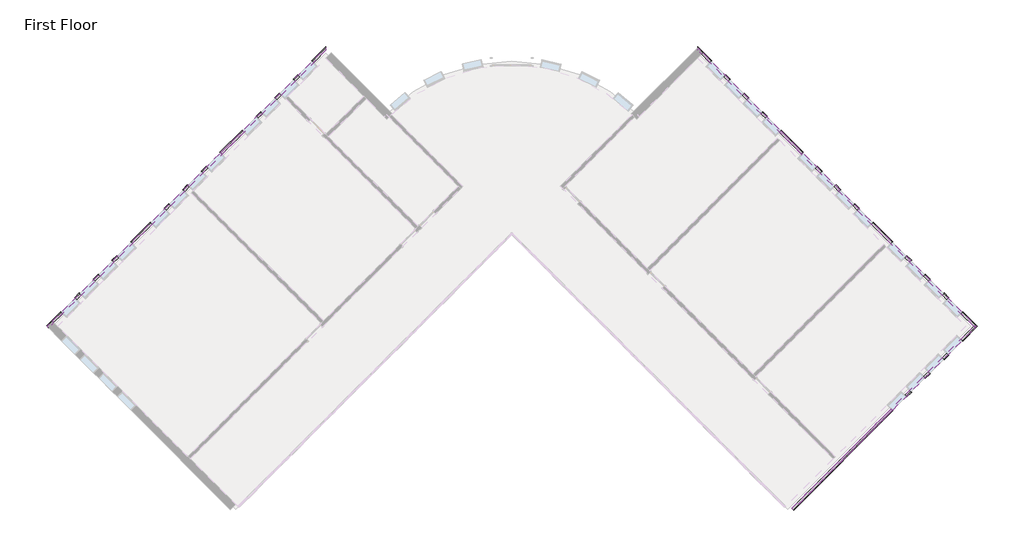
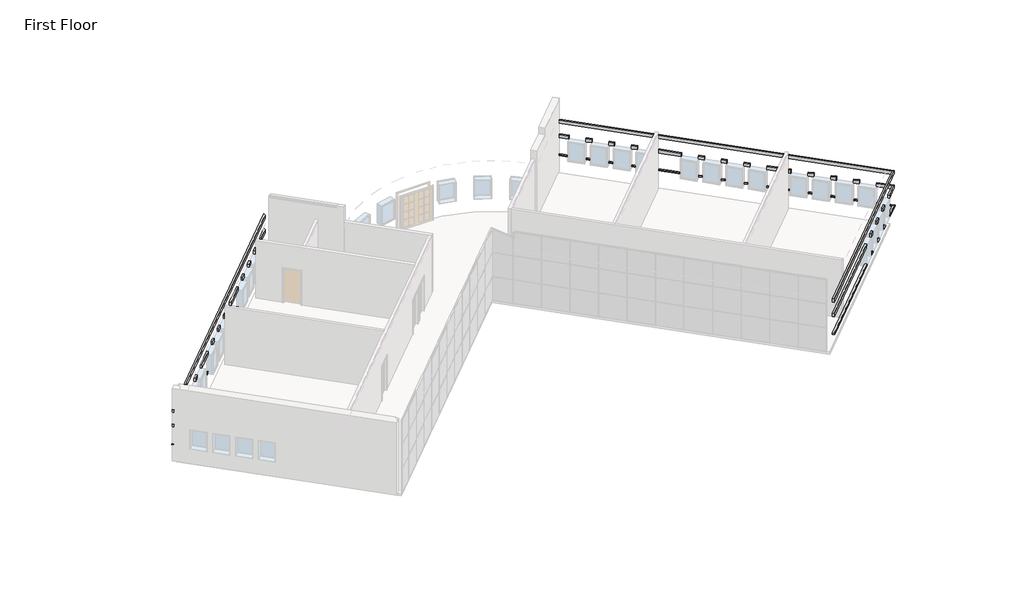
# One storey, part 5 of 5: 9 proxies.
"""IFC4 building model written with IfcOpenShell, lengths in millimetres."""

from ifc_helpers import new_model, si_unit, origin, place, context, project, spatial, faceted_brep, element, save

model = new_model("IFC4")

# Units and contexts
model_context = context("Model", 3, world=origin())
ifc_project = project(units=[si_unit("LENGTHUNIT", "METRE", prefix="MILLI")], contexts=[model_context])

# Site, building, storey
site = spatial("IfcSite", under=ifc_project)
building = spatial("IfcBuilding", under=site)
storey = spatial("IfcBuildingStorey", under=building, Name="First Floor", Elevation=0.0)

# Proxies
placement = place(None, origin())
element("IfcBuildingElementProxy", 1, Name="Wall Sweeps", at=placement, inside=storey, context=model_context, shape_type="Brep", body=[
    faceted_brep([(5753.0175119, 11443.3655905, 1085.85), (5753.0175119, 11573.5793042, 1085.85), (5753.0175119, 11622.9707129, 1041.4), (5753.0175119, 11622.9707129, 1016.0), (5753.0175119, 11443.3655905, 1016.0), (6317.415551, 10878.9675514, 1085.85), (6317.415551, 10878.9675514, 1016.0), (6382.5224079, 10944.0744083, 1016.0), (6407.2181122, 10968.7701126, 1016.0), (6407.2181122, 10968.7701126, 1041.4), (6382.5224079, 10944.0744083, 1085.85), (5937.1127624, 11259.27034, 1085.85), (5937.1127624, 11259.27034, 1016.0)], [[[0, 1, 2, 3, 4]], [[5, 6, 7, 8, 9, 10]], [[1, 0, 11, 5, 10]], [[2, 1, 10, 9]], [[3, 2, 9, 8]], [[4, 3, 8, 7, 6, 12]], [[0, 4, 12, 6, 5, 11]]]),
    faceted_brep([(6963.9939917, 10232.3891107, 1085.85), (7029.1008486, 10297.4959676, 1085.85), (7053.7965529, 10322.1916719, 1041.4), (7053.7965529, 10322.1916719, 1016.0), (7029.1008486, 10297.4959676, 1016.0), (6963.9939917, 10232.3891107, 1016.0), (7179.5201386, 10016.8629638, 1085.85), (7179.5201386, 10016.8629638, 1016.0), (7244.6269955, 10081.9698207, 1016.0), (7269.3226998, 10106.665525, 1016.0), (7269.3226998, 10106.665525, 1041.4), (7244.6269955, 10081.9698207, 1085.85)], [[[0, 1, 2, 3, 4, 5]], [[6, 7, 8, 9, 10, 11]], [[1, 0, 6, 11]], [[2, 1, 11, 10]], [[3, 2, 10, 9]], [[5, 4, 3, 9, 8, 7]], [[0, 5, 7, 6]]]),
    faceted_brep([(7826.0985793, 9370.2845231, 1085.85), (7891.2054362, 9435.39138, 1085.85), (7915.9011405, 9460.0870843, 1041.4), (7915.9011405, 9460.0870843, 1016.0), (7891.2054362, 9435.39138, 1016.0), (7826.0985793, 9370.2845231, 1016.0), (8041.6247262, 9154.7583762, 1085.85), (8041.6247262, 9154.7583762, 1016.0), (8106.7315831, 9219.8652331, 1016.0), (8131.4272874, 9244.5609374, 1016.0), (8131.4272874, 9244.5609374, 1041.4), (8106.7315831, 9219.8652331, 1085.85)], [[[0, 1, 2, 3, 4, 5]], [[6, 7, 8, 9, 10, 11]], [[1, 0, 6, 11]], [[2, 1, 11, 10]], [[3, 2, 10, 9]], [[5, 4, 3, 9, 8, 7]], [[0, 5, 7, 6]]]),
    faceted_brep([(8688.2031669, 8508.1799355, 1085.85), (8753.3100238, 8573.2867923, 1085.85), (8778.0057282, 8597.9824967, 1041.4), (8778.0057282, 8597.9824967, 1016.0), (8753.3100238, 8573.2867923, 1016.0), (8688.2031669, 8508.1799355, 1016.0), (8903.7293139, 8292.6537886, 1085.85), (8903.7293139, 8292.6537886, 1016.0), (8968.8361707, 8357.7606454, 1016.0), (8993.5318751, 8382.4563498, 1016.0), (8993.5318751, 8382.4563498, 1041.4), (8968.8361707, 8357.7606454, 1085.85)], [[[0, 1, 2, 3, 4, 5]], [[6, 7, 8, 9, 10, 11]], [[1, 0, 6, 11]], [[2, 1, 11, 10]], [[3, 2, 10, 9]], [[5, 4, 3, 9, 8, 7]], [[0, 5, 7, 6]]]),
    faceted_brep([(9550.3077546, 7646.0753478, 1085.85), (9615.4146114, 7711.1822047, 1085.85), (9640.1103158, 7735.877909, 1041.4), (9640.1103158, 7735.877909, 1016.0), (9615.4146114, 7711.1822047, 1016.0), (9550.3077546, 7646.0753478, 1016.0), (10574.7639411, 6621.6191613, 1085.85), (10574.7639411, 6621.6191613, 1016.0), (10639.870798, 6686.7260182, 1016.0), (10664.5665023, 6711.4217225, 1016.0), (10664.5665023, 6711.4217225, 1041.4), (10639.870798, 6686.7260182, 1085.85)], [[[0, 1, 2, 3, 4, 5]], [[6, 7, 8, 9, 10, 11]], [[1, 0, 6, 11]], [[2, 1, 11, 10]], [[3, 2, 10, 9]], [[5, 4, 3, 9, 8, 7]], [[0, 5, 7, 6]]]),
    faceted_brep([(11221.3423818, 5975.0407206, 1085.85), (11286.4492387, 6040.1475775, 1085.85), (11311.144943, 6064.8432818, 1041.4), (11311.144943, 6064.8432818, 1016.0), (11286.4492387, 6040.1475775, 1016.0), (11221.3423818, 5975.0407206, 1016.0), (11436.8685287, 5759.5145737, 1085.85), (11436.8685287, 5759.5145737, 1016.0), (11501.9753856, 5824.6214306, 1016.0), (11526.6710899, 5849.3171349, 1016.0), (11526.6710899, 5849.3171349, 1041.4), (11501.9753856, 5824.6214306, 1085.85)], [[[0, 1, 2, 3, 4, 5]], [[6, 7, 8, 9, 10, 11]], [[1, 0, 6, 11]], [[2, 1, 11, 10]], [[3, 2, 10, 9]], [[5, 4, 3, 9, 8, 7]], [[0, 5, 7, 6]]]),
    faceted_brep([(12083.4469694, 5112.936133, 1085.85), (12148.5538263, 5178.0429899, 1085.85), (12173.2495306, 5202.7386942, 1041.4), (12173.2495306, 5202.7386942, 1016.0), (12148.5538263, 5178.0429899, 1016.0), (12083.4469694, 5112.936133, 1016.0), (12298.9731163, 4897.4099861, 1085.85), (12298.9731163, 4897.4099861, 1016.0), (12364.0799732, 4962.516843, 1016.0), (12388.7756775, 4987.2125473, 1016.0), (12388.7756775, 4987.2125473, 1041.4), (12364.0799732, 4962.516843, 1085.85)], [[[0, 1, 2, 3, 4, 5]], [[6, 7, 8, 9, 10, 11]], [[1, 0, 6, 11]], [[2, 1, 11, 10]], [[3, 2, 10, 9]], [[5, 4, 3, 9, 8, 7]], [[0, 5, 7, 6]]]),
    faceted_brep([(12945.551557, 4250.8315454, 1085.85), (13010.6584139, 4315.9384023, 1085.85), (13035.3541182, 4340.6341066, 1041.4), (13035.3541182, 4340.6341066, 1016.0), (13010.6584139, 4315.9384023, 1016.0), (12945.551557, 4250.8315454, 1016.0), (13161.0777039, 4035.3053985, 1085.85), (13161.0777039, 4035.3053985, 1016.0), (13226.1845608, 4100.4122553, 1016.0), (13250.8802652, 4125.1079597, 1016.0), (13250.8802652, 4125.1079597, 1041.4), (13226.1845608, 4100.4122553, 1085.85)], [[[0, 1, 2, 3, 4, 5]], [[6, 7, 8, 9, 10, 11]], [[1, 0, 6, 11]], [[2, 1, 11, 10]], [[3, 2, 10, 9]], [[5, 4, 3, 9, 8, 7]], [[0, 5, 7, 6]]]),
    faceted_brep([(13807.6561447, 3388.7269578, 1085.85), (13872.7630015, 3453.8338146, 1085.85), (13897.4587059, 3478.529519, 1041.4), (13897.4587059, 3478.529519, 1016.0), (13872.7630015, 3453.8338146, 1016.0), (13807.6561447, 3388.7269578, 1016.0), (14723.1708449, 2473.2122576, 1085.85), (14723.1708449, 2473.2122576, 1016.0), (14788.2777017, 2538.3191144, 1016.0), (14812.9734061, 2563.0148188, 1016.0), (14812.9734061, 2563.0148188, 1041.4), (14788.2777017, 2538.3191144, 1085.85)], [[[0, 1, 2, 3, 4, 5]], [[6, 7, 8, 9, 10, 11]], [[1, 0, 6, 11]], [[2, 1, 11, 10]], [[3, 2, 10, 9]], [[5, 4, 3, 9, 8, 7]], [[0, 5, 7, 6]]]),
    faceted_brep([(15369.7492856, 1826.6338168, 1085.85), (15434.8561424, 1891.7406737, 1085.85), (15459.5518468, 1916.4363781, 1041.4), (15459.5518468, 1916.4363781, 1016.0), (15434.8561424, 1891.7406737, 1016.0), (15369.7492856, 1826.6338168, 1016.0), (15585.2754325, 1611.1076699, 1085.85), (15585.2754325, 1611.1076699, 1016.0), (15650.3822894, 1676.2145268, 1016.0), (15675.0779937, 1700.9102311, 1016.0), (15675.0779937, 1700.9102311, 1041.4), (15650.3822894, 1676.2145268, 1085.85)], [[[0, 1, 2, 3, 4, 5]], [[6, 7, 8, 9, 10, 11]], [[1, 0, 6, 11]], [[2, 1, 11, 10]], [[3, 2, 10, 9]], [[5, 4, 3, 9, 8, 7]], [[0, 5, 7, 6]]]),
    faceted_brep([(16231.8538732, 964.5292292, 1085.85), (16296.9607301, 1029.6360861, 1085.85), (16321.6564344, 1054.3317904, 1041.4), (16321.6564344, 1054.3317904, 1016.0), (16296.9607301, 1029.6360861, 1016.0), (16231.8538732, 964.5292292, 1016.0), (16447.3800201, 749.0030823, 1085.85), (16447.3800201, 749.0030823, 1016.0), (16512.486877, 814.1099392, 1016.0), (16537.1825813, 838.8056435, 1016.0), (16537.1825813, 838.8056435, 1041.4), (16512.486877, 814.1099392, 1085.85)], [[[0, 1, 2, 3, 4, 5]], [[6, 7, 8, 9, 10, 11]], [[1, 0, 6, 11]], [[2, 1, 11, 10]], [[3, 2, 10, 9]], [[5, 4, 3, 9, 8, 7]], [[0, 5, 7, 6]]]),
    faceted_brep([(17093.9584608, 102.4246416, 1085.85), (17159.0653177, 167.5314985, 1085.85), (17183.761022, 192.2272028, 1041.4), (17183.761022, 192.2272028, 1016.0), (17159.0653177, 167.5314985, 1016.0), (17093.9584608, 102.4246416, 1016.0), (17309.4846077, -113.1015053, 1085.85), (17309.4846077, -113.1015053, 1016.0), (17374.5914646, -47.9946484, 1016.0), (17399.2871689, -23.2989441, 1016.0), (17399.2871689, -23.2989441, 1041.4), (17374.5914646, -47.9946484, 1085.85)], [[[0, 1, 2, 3, 4, 5]], [[6, 7, 8, 9, 10, 11]], [[1, 0, 6, 11]], [[2, 1, 11, 10]], [[3, 2, 10, 9]], [[5, 4, 3, 9, 8, 7]], [[0, 5, 7, 6]]]),
    faceted_brep([(17956.0630484, -759.679946, 1085.85), (18021.1699053, -694.5730891, 1085.85), (18045.8656096, -669.8773848, 1041.4), (18045.8656096, -669.8773848, 1016.0), (18021.1699053, -694.5730891, 1016.0), (17956.0630484, -759.679946, 1016.0), (18554.3726125, -1357.9895101, 1085.85), (18554.3726125, -1357.9895101, 1016.0), (18733.9777349, -1357.9895101, 1016.0), (18733.9777349, -1357.9895101, 1041.4), (18684.5863263, -1357.9895101, 1085.85)], [[[0, 1, 2, 3, 4, 5]], [[6, 7, 8, 9, 10]], [[1, 0, 6, 10]], [[2, 1, 10, 9]], [[3, 2, 9, 8]], [[5, 4, 3, 8, 7]], [[0, 5, 7, 6]]]),
])
element("IfcBuildingElementProxy", 2, Name="Wall Sweeps", at=placement, inside=storey, context=model_context, shape_type="Brep", body=[
    faceted_brep([(5753.0175119, 11573.5793042, 2336.8), (5753.0175119, 11573.5793042, 2133.6), (5753.0175119, 11443.3655905, 2133.6), (5753.0175119, 11443.3655905, 2336.8), (6382.5224079, 10944.0744083, 2336.8), (6317.415551, 10878.9675514, 2336.8), (6317.415551, 10878.9675514, 2133.6), (6382.5224079, 10944.0744083, 2133.6), (6002.2196193, 11324.3771969, 2336.8), (6002.2196193, 11324.3771969, 2133.6), (5937.1127624, 11259.27034, 2133.6), (5937.1127624, 11259.27034, 2336.8)], [[[0, 1, 2, 3]], [[4, 5, 6, 7]], [[1, 0, 8, 4, 7, 9]], [[2, 1, 9, 7, 6, 10]], [[3, 2, 10, 6, 5, 11]], [[0, 3, 11, 5, 4, 8]]]),
    faceted_brep([(7029.1008486, 10297.4959676, 2336.8), (7029.1008486, 10297.4959676, 2133.6), (6963.9939917, 10232.3891107, 2133.6), (6963.9939917, 10232.3891107, 2336.8), (7244.6269955, 10081.9698207, 2336.8), (7179.5201386, 10016.8629638, 2336.8), (7179.5201386, 10016.8629638, 2133.6), (7244.6269955, 10081.9698207, 2133.6)], [[[0, 1, 2, 3]], [[4, 5, 6, 7]], [[1, 0, 4, 7]], [[2, 1, 7, 6]], [[3, 2, 6, 5]], [[0, 3, 5, 4]]]),
    faceted_brep([(7891.2054362, 9435.39138, 2336.8), (7891.2054362, 9435.39138, 2133.6), (7826.0985793, 9370.2845231, 2133.6), (7826.0985793, 9370.2845231, 2336.8), (8106.7315831, 9219.8652331, 2336.8), (8041.6247262, 9154.7583762, 2336.8), (8041.6247262, 9154.7583762, 2133.6), (8106.7315831, 9219.8652331, 2133.6)], [[[0, 1, 2, 3]], [[4, 5, 6, 7]], [[1, 0, 4, 7]], [[2, 1, 7, 6]], [[3, 2, 6, 5]], [[0, 3, 5, 4]]]),
    faceted_brep([(8753.3100238, 8573.2867923, 2336.8), (8753.3100238, 8573.2867923, 2133.6), (8688.2031669, 8508.1799355, 2133.6), (8688.2031669, 8508.1799355, 2336.8), (8968.8361707, 8357.7606454, 2336.8), (8903.7293139, 8292.6537886, 2336.8), (8903.7293139, 8292.6537886, 2133.6), (8968.8361707, 8357.7606454, 2133.6)], [[[0, 1, 2, 3]], [[4, 5, 6, 7]], [[1, 0, 4, 7]], [[2, 1, 7, 6]], [[3, 2, 6, 5]], [[0, 3, 5, 4]]]),
    faceted_brep([(9615.4146114, 7711.1822047, 2336.8), (9615.4146114, 7711.1822047, 2133.6), (9550.3077546, 7646.0753478, 2133.6), (9550.3077546, 7646.0753478, 2336.8), (10639.870798, 6686.7260182, 2336.8), (10574.7639411, 6621.6191613, 2336.8), (10574.7639411, 6621.6191613, 2133.6), (10639.870798, 6686.7260182, 2133.6)], [[[0, 1, 2, 3]], [[4, 5, 6, 7]], [[1, 0, 4, 7]], [[2, 1, 7, 6]], [[3, 2, 6, 5]], [[0, 3, 5, 4]]]),
    faceted_brep([(11286.4492387, 6040.1475775, 2336.8), (11286.4492387, 6040.1475775, 2133.6), (11221.3423818, 5975.0407206, 2133.6), (11221.3423818, 5975.0407206, 2336.8), (11501.9753856, 5824.6214306, 2336.8), (11436.8685287, 5759.5145737, 2336.8), (11436.8685287, 5759.5145737, 2133.6), (11501.9753856, 5824.6214306, 2133.6)], [[[0, 1, 2, 3]], [[4, 5, 6, 7]], [[1, 0, 4, 7]], [[2, 1, 7, 6]], [[3, 2, 6, 5]], [[0, 3, 5, 4]]]),
    faceted_brep([(12148.5538263, 5178.0429899, 2336.8), (12148.5538263, 5178.0429899, 2133.6), (12083.4469694, 5112.936133, 2133.6), (12083.4469694, 5112.936133, 2336.8), (12364.0799732, 4962.516843, 2336.8), (12298.9731163, 4897.4099861, 2336.8), (12298.9731163, 4897.4099861, 2133.6), (12364.0799732, 4962.516843, 2133.6)], [[[0, 1, 2, 3]], [[4, 5, 6, 7]], [[1, 0, 4, 7]], [[2, 1, 7, 6]], [[3, 2, 6, 5]], [[0, 3, 5, 4]]]),
    faceted_brep([(13010.6584139, 4315.9384023, 2336.8), (13010.6584139, 4315.9384023, 2133.6), (12945.551557, 4250.8315454, 2133.6), (12945.551557, 4250.8315454, 2336.8), (13226.1845608, 4100.4122553, 2336.8), (13161.0777039, 4035.3053985, 2336.8), (13161.0777039, 4035.3053985, 2133.6), (13226.1845608, 4100.4122553, 2133.6)], [[[0, 1, 2, 3]], [[4, 5, 6, 7]], [[1, 0, 4, 7]], [[2, 1, 7, 6]], [[3, 2, 6, 5]], [[0, 3, 5, 4]]]),
    faceted_brep([(13872.7630015, 3453.8338146, 2336.8), (13872.7630015, 3453.8338146, 2133.6), (13807.6561447, 3388.7269578, 2133.6), (13807.6561447, 3388.7269578, 2336.8), (14788.2777017, 2538.3191144, 2336.8), (14723.1708449, 2473.2122576, 2336.8), (14723.1708449, 2473.2122576, 2133.6), (14788.2777017, 2538.3191144, 2133.6)], [[[0, 1, 2, 3]], [[4, 5, 6, 7]], [[1, 0, 4, 7]], [[2, 1, 7, 6]], [[3, 2, 6, 5]], [[0, 3, 5, 4]]]),
    faceted_brep([(15434.8561424, 1891.7406737, 2336.8), (15434.8561424, 1891.7406737, 2133.6), (15369.7492856, 1826.6338168, 2133.6), (15369.7492856, 1826.6338168, 2336.8), (15650.3822894, 1676.2145268, 2336.8), (15585.2754325, 1611.1076699, 2336.8), (15585.2754325, 1611.1076699, 2133.6), (15650.3822894, 1676.2145268, 2133.6)], [[[0, 1, 2, 3]], [[4, 5, 6, 7]], [[1, 0, 4, 7]], [[2, 1, 7, 6]], [[3, 2, 6, 5]], [[0, 3, 5, 4]]]),
    faceted_brep([(16296.9607301, 1029.6360861, 2336.8), (16296.9607301, 1029.6360861, 2133.6), (16231.8538732, 964.5292292, 2133.6), (16231.8538732, 964.5292292, 2336.8), (16512.486877, 814.1099392, 2336.8), (16447.3800201, 749.0030823, 2336.8), (16447.3800201, 749.0030823, 2133.6), (16512.486877, 814.1099392, 2133.6)], [[[0, 1, 2, 3]], [[4, 5, 6, 7]], [[1, 0, 4, 7]], [[2, 1, 7, 6]], [[3, 2, 6, 5]], [[0, 3, 5, 4]]]),
    faceted_brep([(17159.0653177, 167.5314985, 2336.8), (17159.0653177, 167.5314985, 2133.6), (17093.9584608, 102.4246416, 2133.6), (17093.9584608, 102.4246416, 2336.8), (17374.5914646, -47.9946484, 2336.8), (17309.4846077, -113.1015053, 2336.8), (17309.4846077, -113.1015053, 2133.6), (17374.5914646, -47.9946484, 2133.6)], [[[0, 1, 2, 3]], [[4, 5, 6, 7]], [[1, 0, 4, 7]], [[2, 1, 7, 6]], [[3, 2, 6, 5]], [[0, 3, 5, 4]]]),
    faceted_brep([(18021.1699053, -694.5730891, 2336.8), (18021.1699053, -694.5730891, 2133.6), (17956.0630484, -759.679946, 2133.6), (17956.0630484, -759.679946, 2336.8), (18684.5863263, -1357.9895101, 2336.8), (18554.3726125, -1357.9895101, 2336.8), (18554.3726125, -1357.9895101, 2133.6), (18684.5863263, -1357.9895101, 2133.6)], [[[0, 1, 2, 3]], [[4, 5, 6, 7]], [[1, 0, 4, 7]], [[2, 1, 7, 6]], [[3, 2, 6, 5]], [[0, 3, 5, 4]]]),
])
element("IfcBuildingElementProxy", 3, Name="Wall Sweeps", at=placement, inside=storey, context=model_context, shape_type="Brep", body=[
    faceted_brep([(5753.0175119, 11573.5793042, 3251.2), (5753.0175119, 11573.5793042, 3048.0), (5753.0175119, 11443.3655905, 3048.0), (5753.0175119, 11443.3655905, 3251.2), (18684.5863263, -1357.9895101, 3251.2), (18554.3726125, -1357.9895101, 3251.2), (18554.3726125, -1357.9895101, 3048.0), (18684.5863263, -1357.9895101, 3048.0), (6002.2196193, 11324.3771969, 3251.2), (6002.2196193, 11324.3771969, 3048.0), (5937.1127624, 11259.27034, 3048.0), (5937.1127624, 11259.27034, 3251.2)], [[[0, 1, 2, 3]], [[4, 5, 6, 7]], [[1, 0, 8, 4, 7, 9]], [[2, 1, 9, 7, 6, 10]], [[3, 2, 10, 6, 5, 11]], [[0, 3, 11, 5, 4, 8]]]),
])
element("IfcBuildingElementProxy", 4, Name="Wall Sweeps", at=placement, inside=storey, context=model_context, shape_type="Brep", body=[
    faceted_brep([(18554.3726125, -1357.9895101, 1085.85), (18684.5863263, -1357.9895101, 1085.85), (18733.9777349, -1357.9895101, 1041.4), (18733.9777349, -1357.9895101, 1016.0), (18554.3726125, -1357.9895101, 1016.0), (17956.0630484, -1956.2990742, 1085.85), (17956.0630484, -1956.2990742, 1016.0), (18021.1699053, -2021.405931, 1016.0), (18045.8656096, -2046.1016354, 1016.0), (18045.8656096, -2046.1016354, 1041.4), (18021.1699053, -2021.405931, 1085.85), (18370.277362, -1542.0847606, 1085.85), (18370.277362, -1542.0847606, 1016.0)], [[[0, 1, 2, 3, 4]], [[5, 6, 7, 8, 9, 10]], [[1, 0, 11, 5, 10]], [[2, 1, 10, 9]], [[3, 2, 9, 8]], [[4, 3, 8, 7, 6, 12]], [[0, 4, 12, 6, 5, 11]]]),
    faceted_brep([(17309.4846077, -2602.8775149, 1085.85), (17374.5914646, -2667.9843718, 1085.85), (17399.2871689, -2692.6800761, 1041.4), (17399.2871689, -2692.6800761, 1016.0), (17374.5914646, -2667.9843718, 1016.0), (17309.4846077, -2602.8775149, 1016.0), (17093.9584608, -2818.4036618, 1085.85), (17093.9584608, -2818.4036618, 1016.0), (17159.0653177, -2883.5105187, 1016.0), (17183.761022, -2908.206223, 1016.0), (17183.761022, -2908.206223, 1041.4), (17159.0653177, -2883.5105187, 1085.85)], [[[0, 1, 2, 3, 4, 5]], [[6, 7, 8, 9, 10, 11]], [[1, 0, 6, 11]], [[2, 1, 11, 10]], [[3, 2, 10, 9]], [[5, 4, 3, 9, 8, 7]], [[0, 5, 7, 6]]]),
    faceted_brep([(16447.3800201, -3464.9821025, 1085.85), (16512.486877, -3530.0889594, 1085.85), (16537.1825813, -3554.7846637, 1041.4), (16537.1825813, -3554.7846637, 1016.0), (16512.486877, -3530.0889594, 1016.0), (16447.3800201, -3464.9821025, 1016.0), (16231.8538732, -3680.5082494, 1085.85), (16231.8538732, -3680.5082494, 1016.0), (16296.9607301, -3745.6151063, 1016.0), (16321.6564344, -3770.3108106, 1016.0), (16321.6564344, -3770.3108106, 1041.4), (16296.9607301, -3745.6151063, 1085.85)], [[[0, 1, 2, 3, 4, 5]], [[6, 7, 8, 9, 10, 11]], [[1, 0, 6, 11]], [[2, 1, 11, 10]], [[3, 2, 10, 9]], [[5, 4, 3, 9, 8, 7]], [[0, 5, 7, 6]]]),
    faceted_brep([(15585.2754325, -4327.0866901, 1085.85), (15650.3822894, -4392.193547, 1085.85), (15675.0779937, -4416.8892513, 1041.4), (15675.0779937, -4416.8892513, 1016.0), (15650.3822894, -4392.193547, 1016.0), (15585.2754325, -4327.0866901, 1016.0), (15369.7492856, -4542.612837, 1085.85), (15369.7492856, -4542.612837, 1016.0), (15434.8561424, -4607.7196939, 1016.0), (15459.5518468, -4632.4153982, 1016.0), (15459.5518468, -4632.4153982, 1041.4), (15434.8561424, -4607.7196939, 1085.85)], [[[0, 1, 2, 3, 4, 5]], [[6, 7, 8, 9, 10, 11]], [[1, 0, 6, 11]], [[2, 1, 11, 10]], [[3, 2, 10, 9]], [[5, 4, 3, 9, 8, 7]], [[0, 5, 7, 6]]]),
    faceted_brep([(14723.1708449, -5189.1912777, 1085.85), (14788.2777017, -5254.2981346, 1085.85), (14812.9734061, -5278.993839, 1041.4), (14812.9734061, -5278.993839, 1016.0), (14788.2777017, -5254.2981346, 1016.0), (14723.1708449, -5189.1912777, 1016.0), (10123.0346468, -9789.3274758, 1085.85), (10123.0346468, -9789.3274758, 1016.0), (10188.1415037, -9854.4343326, 1016.0), (10212.837208, -9879.130037, 1016.0), (10212.837208, -9879.130037, 1041.4), (10188.1415037, -9854.4343326, 1085.85)], [[[0, 1, 2, 3, 4, 5]], [[6, 7, 8, 9, 10, 11]], [[1, 0, 6, 11]], [[2, 1, 11, 10]], [[3, 2, 10, 9]], [[5, 4, 3, 9, 8, 7]], [[0, 5, 7, 6]]]),
])
element("IfcBuildingElementProxy", 5, Name="Wall Sweeps", at=placement, inside=storey, context=model_context, shape_type="Brep", body=[
    faceted_brep([(18684.5863263, -1357.9895101, 2336.8), (18684.5863263, -1357.9895101, 2133.6), (18554.3726125, -1357.9895101, 2133.6), (18554.3726125, -1357.9895101, 2336.8), (18021.1699053, -2021.405931, 2336.8), (17956.0630484, -1956.2990742, 2336.8), (17956.0630484, -1956.2990742, 2133.6), (18021.1699053, -2021.405931, 2133.6), (18435.3842189, -1607.1916175, 2336.8), (18435.3842189, -1607.1916175, 2133.6), (18370.277362, -1542.0847606, 2133.6), (18370.277362, -1542.0847606, 2336.8)], [[[0, 1, 2, 3]], [[4, 5, 6, 7]], [[1, 0, 8, 4, 7, 9]], [[2, 1, 9, 7, 6, 10]], [[3, 2, 10, 6, 5, 11]], [[0, 3, 11, 5, 4, 8]]]),
    faceted_brep([(17374.5914646, -2667.9843718, 2336.8), (17374.5914646, -2667.9843718, 2133.6), (17309.4846077, -2602.8775149, 2133.6), (17309.4846077, -2602.8775149, 2336.8), (17159.0653177, -2883.5105187, 2336.8), (17093.9584608, -2818.4036618, 2336.8), (17093.9584608, -2818.4036618, 2133.6), (17159.0653177, -2883.5105187, 2133.6)], [[[0, 1, 2, 3]], [[4, 5, 6, 7]], [[1, 0, 4, 7]], [[2, 1, 7, 6]], [[3, 2, 6, 5]], [[0, 3, 5, 4]]]),
    faceted_brep([(16512.486877, -3530.0889594, 2336.8), (16512.486877, -3530.0889594, 2133.6), (16447.3800201, -3464.9821025, 2133.6), (16447.3800201, -3464.9821025, 2336.8), (16296.9607301, -3745.6151063, 2336.8), (16231.8538732, -3680.5082494, 2336.8), (16231.8538732, -3680.5082494, 2133.6), (16296.9607301, -3745.6151063, 2133.6)], [[[0, 1, 2, 3]], [[4, 5, 6, 7]], [[1, 0, 4, 7]], [[2, 1, 7, 6]], [[3, 2, 6, 5]], [[0, 3, 5, 4]]]),
    faceted_brep([(15650.3822894, -4392.193547, 2336.8), (15650.3822894, -4392.193547, 2133.6), (15585.2754325, -4327.0866901, 2133.6), (15585.2754325, -4327.0866901, 2336.8), (15434.8561424, -4607.7196939, 2336.8), (15369.7492856, -4542.612837, 2336.8), (15369.7492856, -4542.612837, 2133.6), (15434.8561424, -4607.7196939, 2133.6)], [[[0, 1, 2, 3]], [[4, 5, 6, 7]], [[1, 0, 4, 7]], [[2, 1, 7, 6]], [[3, 2, 6, 5]], [[0, 3, 5, 4]]]),
    faceted_brep([(14788.2777017, -5254.2981346, 2336.8), (14788.2777017, -5254.2981346, 2133.6), (14723.1708449, -5189.1912777, 2133.6), (14723.1708449, -5189.1912777, 2336.8), (10188.1415037, -9854.4343326, 2336.8), (10123.0346468, -9789.3274758, 2336.8), (10123.0346468, -9789.3274758, 2133.6), (10188.1415037, -9854.4343326, 2133.6)], [[[0, 1, 2, 3]], [[4, 5, 6, 7]], [[1, 0, 4, 7]], [[2, 1, 7, 6]], [[3, 2, 6, 5]], [[0, 3, 5, 4]]]),
])
element("IfcBuildingElementProxy", 6, Name="Wall Sweeps", at=placement, inside=storey, context=model_context, shape_type="Brep", body=[
    faceted_brep([(18684.5863263, -1357.9895101, 3251.2), (18684.5863263, -1357.9895101, 3048.0), (18554.3726125, -1357.9895101, 3048.0), (18554.3726125, -1357.9895101, 3251.2), (10188.1415037, -9854.4343326, 3251.2), (10123.0346468, -9789.3274758, 3251.2), (10123.0346468, -9789.3274758, 3048.0), (10188.1415037, -9854.4343326, 3048.0), (18435.3842189, -1607.1916175, 3251.2), (18435.3842189, -1607.1916175, 3048.0), (18370.277362, -1542.0847606, 3048.0), (18370.277362, -1542.0847606, 3251.2)], [[[0, 1, 2, 3]], [[4, 5, 6, 7]], [[1, 0, 8, 4, 7, 9]], [[2, 1, 9, 7, 6, 10]], [[3, 2, 10, 6, 5, 11]], [[0, 3, 11, 5, 4, 8]]]),
])
element("IfcBuildingElementProxy", 7, Name="Wall Sweeps", at=placement, inside=storey, context=model_context, shape_type="Brep", body=[
    faceted_brep([(-24355.536198, -1423.096367, 1085.85), (-24420.6430549, -1357.9895101, 1085.85), (-24445.3387592, -1333.2938058, 1041.4), (-24445.3387592, -1333.2938058, 1016.0), (-24355.536198, -1423.096367, 1016.0), (-23692.119777, -759.679946, 1085.85), (-23692.119777, -759.679946, 1016.0), (-23757.2266339, -694.5730891, 1016.0), (-23781.9223383, -669.8773848, 1016.0), (-23781.9223383, -669.8773848, 1041.4), (-23757.2266339, -694.5730891, 1085.85), (-24106.3340906, -1173.8942596, 1085.85), (-24106.3340906, -1173.8942596, 1016.0)], [[[0, 1, 2, 3, 4]], [[5, 6, 7, 8, 9, 10]], [[1, 0, 11, 5, 10]], [[2, 1, 10, 9]], [[3, 2, 9, 8]], [[4, 3, 8, 7, 6, 12]], [[0, 4, 12, 6, 5, 11]]]),
    faceted_brep([(-23045.5413363, -113.1015053, 1085.85), (-23110.6481932, -47.9946484, 1085.85), (-23135.3438975, -23.2989441, 1041.4), (-23135.3438975, -23.2989441, 1016.0), (-23110.6481932, -47.9946484, 1016.0), (-23045.5413363, -113.1015053, 1016.0), (-22830.0151894, 102.4246416, 1085.85), (-22830.0151894, 102.4246416, 1016.0), (-22895.1220463, 167.5314985, 1016.0), (-22919.8177506, 192.2272028, 1016.0), (-22919.8177506, 192.2272028, 1041.4), (-22895.1220463, 167.5314985, 1085.85)], [[[0, 1, 2, 3, 4, 5]], [[6, 7, 8, 9, 10, 11]], [[1, 0, 6, 11]], [[2, 1, 11, 10]], [[3, 2, 10, 9]], [[5, 4, 3, 9, 8, 7]], [[0, 5, 7, 6]]]),
    faceted_brep([(-22183.4367487, 749.0030823, 1085.85), (-22248.5436056, 814.1099392, 1085.85), (-22273.2393099, 838.8056435, 1041.4), (-22273.2393099, 838.8056435, 1016.0), (-22248.5436056, 814.1099392, 1016.0), (-22183.4367487, 749.0030823, 1016.0), (-21967.9106018, 964.5292292, 1085.85), (-21967.9106018, 964.5292292, 1016.0), (-22033.0174587, 1029.6360861, 1016.0), (-22057.713163, 1054.3317904, 1016.0), (-22057.713163, 1054.3317904, 1041.4), (-22033.0174587, 1029.6360861, 1085.85)], [[[0, 1, 2, 3, 4, 5]], [[6, 7, 8, 9, 10, 11]], [[1, 0, 6, 11]], [[2, 1, 11, 10]], [[3, 2, 10, 9]], [[5, 4, 3, 9, 8, 7]], [[0, 5, 7, 6]]]),
    faceted_brep([(-21321.3321611, 1611.1076699, 1085.85), (-21386.439018, 1676.2145268, 1085.85), (-21411.1347223, 1700.9102311, 1041.4), (-21411.1347223, 1700.9102311, 1016.0), (-21386.439018, 1676.2145268, 1016.0), (-21321.3321611, 1611.1076699, 1016.0), (-21105.8060142, 1826.6338168, 1085.85), (-21105.8060142, 1826.6338168, 1016.0), (-21170.9128711, 1891.7406737, 1016.0), (-21195.6085754, 1916.4363781, 1016.0), (-21195.6085754, 1916.4363781, 1041.4), (-21170.9128711, 1891.7406737, 1085.85)], [[[0, 1, 2, 3, 4, 5]], [[6, 7, 8, 9, 10, 11]], [[1, 0, 6, 11]], [[2, 1, 11, 10]], [[3, 2, 10, 9]], [[5, 4, 3, 9, 8, 7]], [[0, 5, 7, 6]]]),
    faceted_brep([(-20459.2275735, 2473.2122576, 1085.85), (-20524.3344303, 2538.3191144, 1085.85), (-20549.0301347, 2563.0148188, 1041.4), (-20549.0301347, 2563.0148188, 1016.0), (-20524.3344303, 2538.3191144, 1016.0), (-20459.2275735, 2473.2122576, 1016.0), (-19543.7128733, 3388.7269578, 1085.85), (-19543.7128733, 3388.7269578, 1016.0), (-19608.8197301, 3453.8338146, 1016.0), (-19633.5154345, 3478.529519, 1016.0), (-19633.5154345, 3478.529519, 1041.4), (-19608.8197301, 3453.8338146, 1085.85)], [[[0, 1, 2, 3, 4, 5]], [[6, 7, 8, 9, 10, 11]], [[1, 0, 6, 11]], [[2, 1, 11, 10]], [[3, 2, 10, 9]], [[5, 4, 3, 9, 8, 7]], [[0, 5, 7, 6]]]),
    faceted_brep([(-18897.1344326, 4035.3053985, 1085.85), (-18962.2412894, 4100.4122553, 1085.85), (-18986.9369938, 4125.1079597, 1041.4), (-18986.9369938, 4125.1079597, 1016.0), (-18962.2412894, 4100.4122553, 1016.0), (-18897.1344326, 4035.3053985, 1016.0), (-18681.6082856, 4250.8315454, 1085.85), (-18681.6082856, 4250.8315454, 1016.0), (-18746.7151425, 4315.9384023, 1016.0), (-18771.4108469, 4340.6341066, 1016.0), (-18771.4108469, 4340.6341066, 1041.4), (-18746.7151425, 4315.9384023, 1085.85)], [[[0, 1, 2, 3, 4, 5]], [[6, 7, 8, 9, 10, 11]], [[1, 0, 6, 11]], [[2, 1, 11, 10]], [[3, 2, 10, 9]], [[5, 4, 3, 9, 8, 7]], [[0, 5, 7, 6]]]),
    faceted_brep([(-18035.0298449, 4897.4099861, 1085.85), (-18100.1367018, 4962.516843, 1085.85), (-18124.8324061, 4987.2125473, 1041.4), (-18124.8324061, 4987.2125473, 1016.0), (-18100.1367018, 4962.516843, 1016.0), (-18035.0298449, 4897.4099861, 1016.0), (-17819.503698, 5112.936133, 1085.85), (-17819.503698, 5112.936133, 1016.0), (-17884.6105549, 5178.0429899, 1016.0), (-17909.3062592, 5202.7386942, 1016.0), (-17909.3062592, 5202.7386942, 1041.4), (-17884.6105549, 5178.0429899, 1085.85)], [[[0, 1, 2, 3, 4, 5]], [[6, 7, 8, 9, 10, 11]], [[1, 0, 6, 11]], [[2, 1, 11, 10]], [[3, 2, 10, 9]], [[5, 4, 3, 9, 8, 7]], [[0, 5, 7, 6]]]),
    faceted_brep([(-17172.9252573, 5759.5145737, 1085.85), (-17238.0321142, 5824.6214306, 1085.85), (-17262.7278185, 5849.3171349, 1041.4), (-17262.7278185, 5849.3171349, 1016.0), (-17238.0321142, 5824.6214306, 1016.0), (-17172.9252573, 5759.5145737, 1016.0), (-16957.3991104, 5975.0407206, 1085.85), (-16957.3991104, 5975.0407206, 1016.0), (-17022.5059673, 6040.1475775, 1016.0), (-17047.2016716, 6064.8432818, 1016.0), (-17047.2016716, 6064.8432818, 1041.4), (-17022.5059673, 6040.1475775, 1085.85)], [[[0, 1, 2, 3, 4, 5]], [[6, 7, 8, 9, 10, 11]], [[1, 0, 6, 11]], [[2, 1, 11, 10]], [[3, 2, 10, 9]], [[5, 4, 3, 9, 8, 7]], [[0, 5, 7, 6]]]),
    faceted_brep([(-16310.8206697, 6621.6191613, 1085.85), (-16375.9275266, 6686.7260182, 1085.85), (-16400.6232309, 6711.4217225, 1041.4), (-16400.6232309, 6711.4217225, 1016.0), (-16375.9275266, 6686.7260182, 1016.0), (-16310.8206697, 6621.6191613, 1016.0), (-15286.3644832, 7646.0753478, 1085.85), (-15286.3644832, 7646.0753478, 1016.0), (-15351.4713401, 7711.1822047, 1016.0), (-15376.1670444, 7735.877909, 1016.0), (-15376.1670444, 7735.877909, 1041.4), (-15351.4713401, 7711.1822047, 1085.85)], [[[0, 1, 2, 3, 4, 5]], [[6, 7, 8, 9, 10, 11]], [[1, 0, 6, 11]], [[2, 1, 11, 10]], [[3, 2, 10, 9]], [[5, 4, 3, 9, 8, 7]], [[0, 5, 7, 6]]]),
    faceted_brep([(-14639.7860425, 8292.6537886, 1085.85), (-14704.8928993, 8357.7606454, 1085.85), (-14729.5886037, 8382.4563498, 1041.4), (-14729.5886037, 8382.4563498, 1016.0), (-14704.8928993, 8357.7606454, 1016.0), (-14639.7860425, 8292.6537886, 1016.0), (-14424.2598956, 8508.1799355, 1085.85), (-14424.2598956, 8508.1799355, 1016.0), (-14489.3667524, 8573.2867923, 1016.0), (-14514.0624568, 8597.9824967, 1016.0), (-14514.0624568, 8597.9824967, 1041.4), (-14489.3667524, 8573.2867923, 1085.85)], [[[0, 1, 2, 3, 4, 5]], [[6, 7, 8, 9, 10, 11]], [[1, 0, 6, 11]], [[2, 1, 11, 10]], [[3, 2, 10, 9]], [[5, 4, 3, 9, 8, 7]], [[0, 5, 7, 6]]]),
    faceted_brep([(-13777.6814548, 9154.7583762, 1085.85), (-13842.7883117, 9219.8652331, 1085.85), (-13867.4840161, 9244.5609374, 1041.4), (-13867.4840161, 9244.5609374, 1016.0), (-13842.7883117, 9219.8652331, 1016.0), (-13777.6814548, 9154.7583762, 1016.0), (-13562.1553079, 9370.2845231, 1085.85), (-13562.1553079, 9370.2845231, 1016.0), (-13627.2621648, 9435.39138, 1016.0), (-13651.9578691, 9460.0870843, 1016.0), (-13651.9578691, 9460.0870843, 1041.4), (-13627.2621648, 9435.39138, 1085.85)], [[[0, 1, 2, 3, 4, 5]], [[6, 7, 8, 9, 10, 11]], [[1, 0, 6, 11]], [[2, 1, 11, 10]], [[3, 2, 10, 9]], [[5, 4, 3, 9, 8, 7]], [[0, 5, 7, 6]]]),
    faceted_brep([(-12915.5768672, 10016.8629638, 1085.85), (-12980.6837241, 10081.9698207, 1085.85), (-13005.3794284, 10106.665525, 1041.4), (-13005.3794284, 10106.665525, 1016.0), (-12980.6837241, 10081.9698207, 1016.0), (-12915.5768672, 10016.8629638, 1016.0), (-12700.0507203, 10232.3891107, 1085.85), (-12700.0507203, 10232.3891107, 1016.0), (-12765.1575772, 10297.4959676, 1016.0), (-12789.8532815, 10322.1916719, 1016.0), (-12789.8532815, 10322.1916719, 1041.4), (-12765.1575772, 10297.4959676, 1085.85)], [[[0, 1, 2, 3, 4, 5]], [[6, 7, 8, 9, 10, 11]], [[1, 0, 6, 11]], [[2, 1, 11, 10]], [[3, 2, 10, 9]], [[5, 4, 3, 9, 8, 7]], [[0, 5, 7, 6]]]),
    faceted_brep([(-12053.4722796, 10878.9675514, 1085.85), (-12118.5791365, 10944.0744083, 1085.85), (-12143.2748408, 10968.7701126, 1041.4), (-12143.2748408, 10968.7701126, 1016.0), (-12118.5791365, 10944.0744083, 1016.0), (-12053.4722796, 10878.9675514, 1016.0), (-11489.0742405, 11443.3655905, 1085.85), (-11489.0742405, 11443.3655905, 1016.0), (-11489.0742405, 11622.9707129, 1016.0), (-11489.0742405, 11622.9707129, 1041.4), (-11489.0742405, 11573.5793042, 1085.85)], [[[0, 1, 2, 3, 4, 5]], [[6, 7, 8, 9, 10]], [[1, 0, 6, 10]], [[2, 1, 10, 9]], [[3, 2, 9, 8]], [[5, 4, 3, 8, 7]], [[0, 5, 7, 6]]]),
])
element("IfcBuildingElementProxy", 8, Name="Wall Sweeps", at=placement, inside=storey, context=model_context, shape_type="Brep", body=[
    faceted_brep([(-24420.6430549, -1357.9895101, 2336.8), (-24420.6430549, -1357.9895101, 2133.6), (-24355.536198, -1423.096367, 2133.6), (-24355.536198, -1423.096367, 2336.8), (-23757.2266339, -694.5730891, 2336.8), (-23692.119777, -759.679946, 2336.8), (-23692.119777, -759.679946, 2133.6), (-23757.2266339, -694.5730891, 2133.6), (-24171.4409475, -1108.7874027, 2336.8), (-24171.4409475, -1108.7874027, 2133.6), (-24106.3340906, -1173.8942596, 2133.6), (-24106.3340906, -1173.8942596, 2336.8)], [[[0, 1, 2, 3]], [[4, 5, 6, 7]], [[1, 0, 8, 4, 7, 9]], [[2, 1, 9, 7, 6, 10]], [[3, 2, 10, 6, 5, 11]], [[0, 3, 11, 5, 4, 8]]]),
    faceted_brep([(-23110.6481932, -47.9946484, 2336.8), (-23110.6481932, -47.9946484, 2133.6), (-23045.5413363, -113.1015053, 2133.6), (-23045.5413363, -113.1015053, 2336.8), (-22895.1220463, 167.5314985, 2336.8), (-22830.0151894, 102.4246416, 2336.8), (-22830.0151894, 102.4246416, 2133.6), (-22895.1220463, 167.5314985, 2133.6)], [[[0, 1, 2, 3]], [[4, 5, 6, 7]], [[1, 0, 4, 7]], [[2, 1, 7, 6]], [[3, 2, 6, 5]], [[0, 3, 5, 4]]]),
    faceted_brep([(-22248.5436056, 814.1099392, 2336.8), (-22248.5436056, 814.1099392, 2133.6), (-22183.4367487, 749.0030823, 2133.6), (-22183.4367487, 749.0030823, 2336.8), (-22033.0174587, 1029.6360861, 2336.8), (-21967.9106018, 964.5292292, 2336.8), (-21967.9106018, 964.5292292, 2133.6), (-22033.0174587, 1029.6360861, 2133.6)], [[[0, 1, 2, 3]], [[4, 5, 6, 7]], [[1, 0, 4, 7]], [[2, 1, 7, 6]], [[3, 2, 6, 5]], [[0, 3, 5, 4]]]),
    faceted_brep([(-21386.439018, 1676.2145268, 2336.8), (-21386.439018, 1676.2145268, 2133.6), (-21321.3321611, 1611.1076699, 2133.6), (-21321.3321611, 1611.1076699, 2336.8), (-21170.9128711, 1891.7406737, 2336.8), (-21105.8060142, 1826.6338168, 2336.8), (-21105.8060142, 1826.6338168, 2133.6), (-21170.9128711, 1891.7406737, 2133.6)], [[[0, 1, 2, 3]], [[4, 5, 6, 7]], [[1, 0, 4, 7]], [[2, 1, 7, 6]], [[3, 2, 6, 5]], [[0, 3, 5, 4]]]),
    faceted_brep([(-20524.3344303, 2538.3191144, 2336.8), (-20524.3344303, 2538.3191144, 2133.6), (-20459.2275735, 2473.2122576, 2133.6), (-20459.2275735, 2473.2122576, 2336.8), (-19608.8197301, 3453.8338146, 2336.8), (-19543.7128733, 3388.7269578, 2336.8), (-19543.7128733, 3388.7269578, 2133.6), (-19608.8197301, 3453.8338146, 2133.6)], [[[0, 1, 2, 3]], [[4, 5, 6, 7]], [[1, 0, 4, 7]], [[2, 1, 7, 6]], [[3, 2, 6, 5]], [[0, 3, 5, 4]]]),
    faceted_brep([(-18962.2412894, 4100.4122553, 2336.8), (-18962.2412894, 4100.4122553, 2133.6), (-18897.1344326, 4035.3053985, 2133.6), (-18897.1344326, 4035.3053985, 2336.8), (-18746.7151425, 4315.9384023, 2336.8), (-18681.6082856, 4250.8315454, 2336.8), (-18681.6082856, 4250.8315454, 2133.6), (-18746.7151425, 4315.9384023, 2133.6)], [[[0, 1, 2, 3]], [[4, 5, 6, 7]], [[1, 0, 4, 7]], [[2, 1, 7, 6]], [[3, 2, 6, 5]], [[0, 3, 5, 4]]]),
    faceted_brep([(-18100.1367018, 4962.516843, 2336.8), (-18100.1367018, 4962.516843, 2133.6), (-18035.0298449, 4897.4099861, 2133.6), (-18035.0298449, 4897.4099861, 2336.8), (-17884.6105549, 5178.0429899, 2336.8), (-17819.503698, 5112.936133, 2336.8), (-17819.503698, 5112.936133, 2133.6), (-17884.6105549, 5178.0429899, 2133.6)], [[[0, 1, 2, 3]], [[4, 5, 6, 7]], [[1, 0, 4, 7]], [[2, 1, 7, 6]], [[3, 2, 6, 5]], [[0, 3, 5, 4]]]),
    faceted_brep([(-17238.0321142, 5824.6214306, 2336.8), (-17238.0321142, 5824.6214306, 2133.6), (-17172.9252573, 5759.5145737, 2133.6), (-17172.9252573, 5759.5145737, 2336.8), (-17022.5059673, 6040.1475775, 2336.8), (-16957.3991104, 5975.0407206, 2336.8), (-16957.3991104, 5975.0407206, 2133.6), (-17022.5059673, 6040.1475775, 2133.6)], [[[0, 1, 2, 3]], [[4, 5, 6, 7]], [[1, 0, 4, 7]], [[2, 1, 7, 6]], [[3, 2, 6, 5]], [[0, 3, 5, 4]]]),
    faceted_brep([(-16375.9275266, 6686.7260182, 2336.8), (-16375.9275266, 6686.7260182, 2133.6), (-16310.8206697, 6621.6191613, 2133.6), (-16310.8206697, 6621.6191613, 2336.8), (-15351.4713401, 7711.1822047, 2336.8), (-15286.3644832, 7646.0753478, 2336.8), (-15286.3644832, 7646.0753478, 2133.6), (-15351.4713401, 7711.1822047, 2133.6)], [[[0, 1, 2, 3]], [[4, 5, 6, 7]], [[1, 0, 4, 7]], [[2, 1, 7, 6]], [[3, 2, 6, 5]], [[0, 3, 5, 4]]]),
    faceted_brep([(-14704.8928993, 8357.7606454, 2336.8), (-14704.8928993, 8357.7606454, 2133.6), (-14639.7860425, 8292.6537886, 2133.6), (-14639.7860425, 8292.6537886, 2336.8), (-14489.3667524, 8573.2867923, 2336.8), (-14424.2598956, 8508.1799355, 2336.8), (-14424.2598956, 8508.1799355, 2133.6), (-14489.3667524, 8573.2867923, 2133.6)], [[[0, 1, 2, 3]], [[4, 5, 6, 7]], [[1, 0, 4, 7]], [[2, 1, 7, 6]], [[3, 2, 6, 5]], [[0, 3, 5, 4]]]),
    faceted_brep([(-13842.7883117, 9219.8652331, 2336.8), (-13842.7883117, 9219.8652331, 2133.6), (-13777.6814548, 9154.7583762, 2133.6), (-13777.6814548, 9154.7583762, 2336.8), (-13627.2621648, 9435.39138, 2336.8), (-13562.1553079, 9370.2845231, 2336.8), (-13562.1553079, 9370.2845231, 2133.6), (-13627.2621648, 9435.39138, 2133.6)], [[[0, 1, 2, 3]], [[4, 5, 6, 7]], [[1, 0, 4, 7]], [[2, 1, 7, 6]], [[3, 2, 6, 5]], [[0, 3, 5, 4]]]),
    faceted_brep([(-12980.6837241, 10081.9698207, 2336.8), (-12980.6837241, 10081.9698207, 2133.6), (-12915.5768672, 10016.8629638, 2133.6), (-12915.5768672, 10016.8629638, 2336.8), (-12765.1575772, 10297.4959676, 2336.8), (-12700.0507203, 10232.3891107, 2336.8), (-12700.0507203, 10232.3891107, 2133.6), (-12765.1575772, 10297.4959676, 2133.6)], [[[0, 1, 2, 3]], [[4, 5, 6, 7]], [[1, 0, 4, 7]], [[2, 1, 7, 6]], [[3, 2, 6, 5]], [[0, 3, 5, 4]]]),
    faceted_brep([(-12118.5791365, 10944.0744083, 2336.8), (-12118.5791365, 10944.0744083, 2133.6), (-12053.4722796, 10878.9675514, 2133.6), (-12053.4722796, 10878.9675514, 2336.8), (-11489.0742405, 11573.5793042, 2336.8), (-11489.0742405, 11443.3655905, 2336.8), (-11489.0742405, 11443.3655905, 2133.6), (-11489.0742405, 11573.5793042, 2133.6)], [[[0, 1, 2, 3]], [[4, 5, 6, 7]], [[1, 0, 4, 7]], [[2, 1, 7, 6]], [[3, 2, 6, 5]], [[0, 3, 5, 4]]]),
])
element("IfcBuildingElementProxy", 9, Name="Wall Sweeps", at=placement, inside=storey, context=model_context, shape_type="Brep", body=[
    faceted_brep([(-24420.6430549, -1357.9895101, 3251.2), (-24420.6430549, -1357.9895101, 3048.0), (-24355.536198, -1423.096367, 3048.0), (-24355.536198, -1423.096367, 3251.2), (-11489.0742405, 11573.5793042, 3251.2), (-11489.0742405, 11443.3655905, 3251.2), (-11489.0742405, 11443.3655905, 3048.0), (-11489.0742405, 11573.5793042, 3048.0), (-24171.4409475, -1108.7874027, 3251.2), (-24171.4409475, -1108.7874027, 3048.0), (-24106.3340906, -1173.8942596, 3048.0), (-24106.3340906, -1173.8942596, 3251.2)], [[[0, 1, 2, 3]], [[4, 5, 6, 7]], [[1, 0, 8, 4, 7, 9]], [[2, 1, 9, 7, 6, 10]], [[3, 2, 10, 6, 5, 11]], [[0, 3, 11, 5, 4, 8]]]),
])

save(model, "model.ifc")
